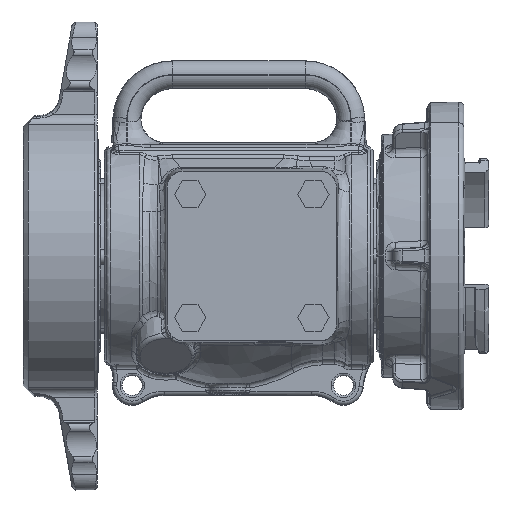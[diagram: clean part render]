
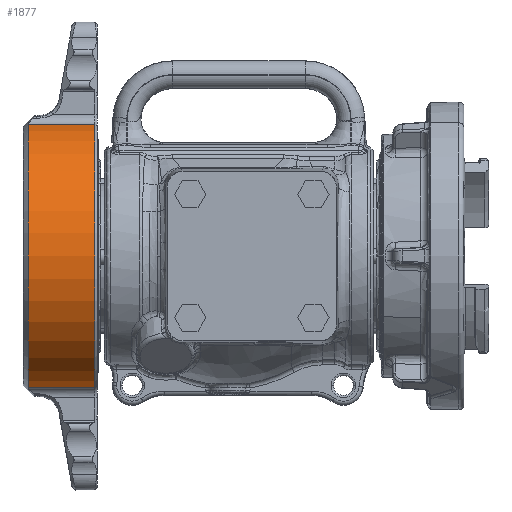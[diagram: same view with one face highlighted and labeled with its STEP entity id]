
A CAD part, front view. The second image highlights one B-rep face of the part: STEP entity #1877.
In plain terms, the highlighted cylindrical face has radius 85.725 mm (diameter 171.45 mm), a partial arc.
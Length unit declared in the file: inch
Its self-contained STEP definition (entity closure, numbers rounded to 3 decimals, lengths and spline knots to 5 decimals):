
#673 = CARTESIAN_POINT ( 'NONE',  ( -3.225, 0., 0. ) ) ;
#1877 = ADVANCED_FACE ( 'NONE', ( #21359 ), #58386, .T. ) ;
#4022 = VERTEX_POINT ( 'NONE', #85491 ) ;
#4165 = DIRECTION ( 'NONE',  ( 0., 0., -1. ) ) ;
#17013 = ORIENTED_EDGE ( 'NONE', *, *, #39637, .T. ) ;
#17438 = ORIENTED_EDGE ( 'NONE', *, *, #32497, .F. ) ;
#19711 = ORIENTED_EDGE ( 'NONE', *, *, #26197, .T. ) ;
#21359 = FACE_OUTER_BOUND ( 'NONE', #73891, .T. ) ;
#22763 = DIRECTION ( 'NONE',  ( -1., 0., 0. ) ) ;
#26197 = EDGE_CURVE ( 'NONE', #4022, #66287, #48858, .T. ) ;
#32497 = EDGE_CURVE ( 'NONE', #50272, #56256, #70674, .T. ) ;
#32927 = CIRCLE ( 'NONE', #37960, 3.375 ) ;
#36003 = DIRECTION ( 'NONE',  ( -1., 0., 0. ) ) ;
#37960 = AXIS2_PLACEMENT_3D ( 'NONE', #47032, #47666, #4165 ) ;
#38244 = CARTESIAN_POINT ( 'NONE',  ( -5.013, -0.675, 3.30681 ) ) ;
#39637 = EDGE_CURVE ( 'NONE', #50272, #4022, #46928, .T. ) ;
#46928 = CIRCLE ( 'NONE', #70602, 3.375 ) ;
#47032 = CARTESIAN_POINT ( 'NONE',  ( -5.013, 0., 0. ) ) ;
#47666 = DIRECTION ( 'NONE',  ( 1., 0., 0. ) ) ;
#48858 = LINE ( 'NONE', #65652, #92954 ) ;
#50182 = DIRECTION ( 'NONE',  ( 0., 0., -1. ) ) ;
#50272 = VERTEX_POINT ( 'NONE', #54046 ) ;
#50413 = DIRECTION ( 'NONE',  ( 0., 0., 1. ) ) ;
#51124 = ORIENTED_EDGE ( 'NONE', *, *, #58742, .T. ) ;
#54046 = CARTESIAN_POINT ( 'NONE',  ( -3.3375, -0.675, -3.30681 ) ) ;
#54356 = CARTESIAN_POINT ( 'NONE',  ( -3.225, -0.675, -3.30681 ) ) ;
#54967 = DIRECTION ( 'NONE',  ( -1., 0., 0. ) ) ;
#56256 = VERTEX_POINT ( 'NONE', #88419 ) ;
#58386 = CYLINDRICAL_SURFACE ( 'NONE', #83905, 3.375 ) ;
#58742 = EDGE_CURVE ( 'NONE', #66287, #56256, #32927, .T. ) ;
#61711 = VECTOR ( 'NONE', #54967, 39.37008 ) ;
#64875 = CARTESIAN_POINT ( 'NONE',  ( -3.3375, 0., 0. ) ) ;
#65652 = CARTESIAN_POINT ( 'NONE',  ( -3.225, -0.675, 3.30681 ) ) ;
#66287 = VERTEX_POINT ( 'NONE', #38244 ) ;
#70602 = AXIS2_PLACEMENT_3D ( 'NONE', #64875, #80266, #50182 ) ;
#70674 = LINE ( 'NONE', #54356, #61711 ) ;
#73891 = EDGE_LOOP ( 'NONE', ( #17438, #17013, #19711, #51124 ) ) ;
#80266 = DIRECTION ( 'NONE',  ( -1., 0., 0. ) ) ;
#83905 = AXIS2_PLACEMENT_3D ( 'NONE', #673, #36003, #50413 ) ;
#85491 = CARTESIAN_POINT ( 'NONE',  ( -3.3375, -0.675, 3.30681 ) ) ;
#88419 = CARTESIAN_POINT ( 'NONE',  ( -5.013, -0.675, -3.30681 ) ) ;
#92954 = VECTOR ( 'NONE', #22763, 39.37008 ) ;
